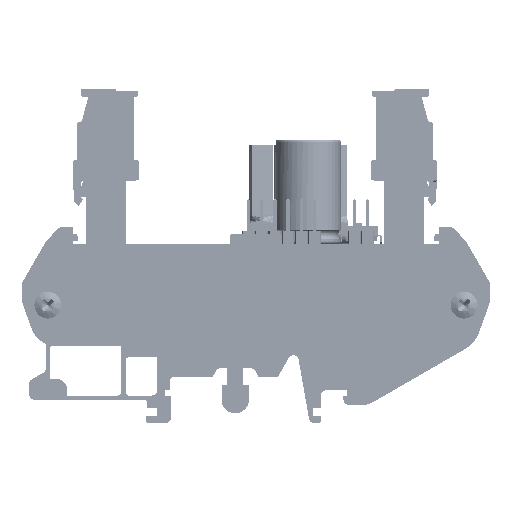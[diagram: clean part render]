
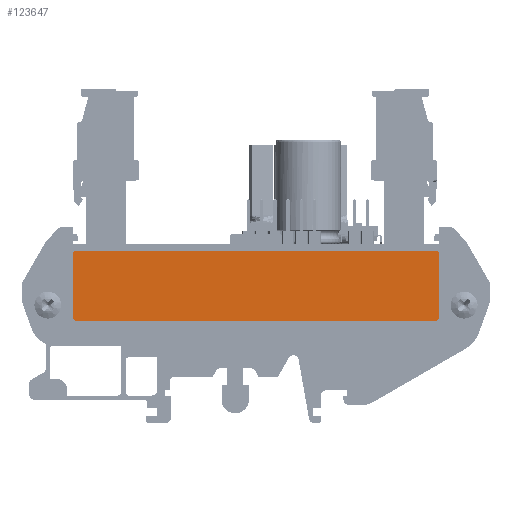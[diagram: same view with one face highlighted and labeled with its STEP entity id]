
A CAD part, left-side view. The second image highlights one B-rep face of the part: STEP entity #123647.
In plain terms, the highlighted planar face has unit normal (-1, 0, 0).
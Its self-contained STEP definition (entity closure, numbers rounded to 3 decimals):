
#3577=FACE_OUTER_BOUND('',#10141,.T.);
#10141=EDGE_LOOP('',(#81083,#81084,#81085,#81086,#81087,#81088,#81089,#81090));
#17780=LINE('',#182444,#31073);
#18154=LINE('',#183443,#31447);
#18157=LINE('',#183451,#31450);
#18228=LINE('',#183623,#31521);
#31073=VECTOR('',#143816,1000.);
#31447=VECTOR('',#144728,1000.);
#31450=VECTOR('',#144733,1000.);
#31521=VECTOR('',#144920,1000.);
#43602=CIRCLE('',#130720,0.5);
#43721=CIRCLE('',#130970,0.5);
#43723=CIRCLE('',#130976,0.5);
#43737=CIRCLE('',#131029,0.5);
#48310=VERTEX_POINT('',#182441);
#48311=VERTEX_POINT('',#182443);
#48327=VERTEX_POINT('',#182494);
#48665=VERTEX_POINT('',#183434);
#48667=VERTEX_POINT('',#183441);
#48670=VERTEX_POINT('',#183448);
#48671=VERTEX_POINT('',#183450);
#48714=VERTEX_POINT('',#183618);
#60512=EDGE_CURVE('',#48310,#48311,#17780,.T.);
#60538=EDGE_CURVE('',#48311,#48327,#43602,.T.);
#61010=EDGE_CURVE('',#48665,#48310,#43721,.T.);
#61013=EDGE_CURVE('',#48667,#48665,#18154,.T.);
#61016=EDGE_CURVE('',#48671,#48670,#18157,.T.);
#61019=EDGE_CURVE('',#48671,#48667,#43723,.T.);
#61102=EDGE_CURVE('',#48714,#48670,#43737,.T.);
#61103=EDGE_CURVE('',#48327,#48714,#18228,.T.);
#81083=ORIENTED_EDGE('',*,*,#61103,.F.);
#81084=ORIENTED_EDGE('',*,*,#60538,.F.);
#81085=ORIENTED_EDGE('',*,*,#60512,.F.);
#81086=ORIENTED_EDGE('',*,*,#61010,.F.);
#81087=ORIENTED_EDGE('',*,*,#61013,.F.);
#81088=ORIENTED_EDGE('',*,*,#61019,.F.);
#81089=ORIENTED_EDGE('',*,*,#61016,.T.);
#81090=ORIENTED_EDGE('',*,*,#61102,.F.);
#111818=PLANE('',#131031);
#123647=ADVANCED_FACE('',(#3577),#111818,.F.);
#130720=AXIS2_PLACEMENT_3D('',#182495,#143867,#143868);
#130970=AXIS2_PLACEMENT_3D('',#183436,#144720,#144721);
#130976=AXIS2_PLACEMENT_3D('',#183455,#144739,#144740);
#131029=AXIS2_PLACEMENT_3D('',#183620,#144914,#144915);
#131031=AXIS2_PLACEMENT_3D('',#183622,#144918,#144919);
#143816=DIRECTION('',(0.,0.,1.));
#143867=DIRECTION('center_axis',(1.,0.,0.));
#143868=DIRECTION('ref_axis',(0.,-1.,0.));
#144720=DIRECTION('center_axis',(1.,0.,0.));
#144721=DIRECTION('ref_axis',(0.,-1.,0.));
#144728=DIRECTION('',(0.,1.,0.));
#144733=DIRECTION('',(0.,0.,1.));
#144739=DIRECTION('center_axis',(1.,0.,0.));
#144740=DIRECTION('ref_axis',(0.,-1.,0.));
#144914=DIRECTION('center_axis',(1.,0.,0.));
#144915=DIRECTION('ref_axis',(0.,-1.,0.));
#144918=DIRECTION('center_axis',(1.,0.,0.));
#144919=DIRECTION('ref_axis',(0.,1.,0.));
#144920=DIRECTION('',(0.,-1.,0.));
#182441=CARTESIAN_POINT('',(-1.3,71.,-14.2));
#182443=CARTESIAN_POINT('',(-1.3,71.,-1.8));
#182444=CARTESIAN_POINT('',(-1.3,71.,-14.2));
#182494=CARTESIAN_POINT('',(-1.3,70.5,-1.3));
#182495=CARTESIAN_POINT('Origin',(-1.3,70.5,-1.8));
#183434=CARTESIAN_POINT('',(-1.3,70.5,-14.7));
#183436=CARTESIAN_POINT('Origin',(-1.3,70.5,-14.2));
#183441=CARTESIAN_POINT('',(-1.3,1.5,-14.7));
#183443=CARTESIAN_POINT('',(-1.3,1.5,-14.7));
#183448=CARTESIAN_POINT('',(-1.3,1.,-1.8));
#183450=CARTESIAN_POINT('',(-1.3,1.,-14.2));
#183451=CARTESIAN_POINT('',(-1.3,1.,-14.2));
#183455=CARTESIAN_POINT('Origin',(-1.3,1.5,-14.2));
#183618=CARTESIAN_POINT('',(-1.3,1.5,-1.3));
#183620=CARTESIAN_POINT('Origin',(-1.3,1.5,-1.8));
#183622=CARTESIAN_POINT('Origin',(-1.3,56.,-33.65));
#183623=CARTESIAN_POINT('',(-1.3,70.5,-1.3));
